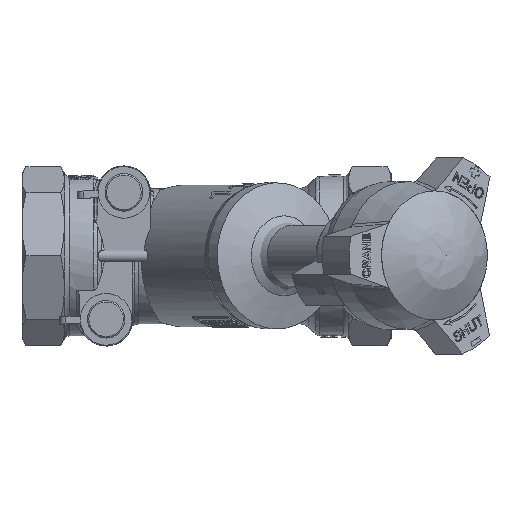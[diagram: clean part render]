
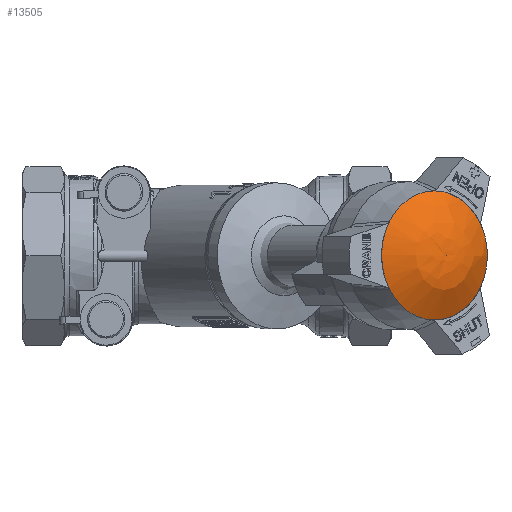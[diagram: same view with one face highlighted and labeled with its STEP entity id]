
A CAD part, top view. The second image highlights one B-rep face of the part: STEP entity #13505.
In plain terms, the highlighted free-form (B-spline) face has degree [2, 2] with [5, 9] control points.
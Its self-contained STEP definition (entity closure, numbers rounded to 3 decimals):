
#13416=CARTESIAN_POINT('',(14.802,21.882,123.101));
#13417=VERTEX_POINT('',#13416);
#13418=CARTESIAN_POINT('',(14.731,0.,123.151));
#13419=DIRECTION('',(0.574,0.,0.819));
#13420=DIRECTION('',(0.003,1.,-0.002));
#13421=AXIS2_PLACEMENT_3D('',#13418,#13419,#13420);
#13422=CIRCLE('',#13421,21.883);
#13423=EDGE_CURVE('',#13417,#13417,#13422,.T.);
#13449=CARTESIAN_POINT('',(29.612,-0.129,87.628));
#13450=CARTESIAN_POINT('',(35.888,-0.125,98.416));
#13451=CARTESIAN_POINT('',(32.688,-0.087,110.48));
#13452=CARTESIAN_POINT('',(29.487,-0.049,122.544));
#13453=CARTESIAN_POINT('',(18.689,0.,128.803));
#13454=CARTESIAN_POINT('',(29.506,-32.695,87.702));
#13455=CARTESIAN_POINT('',(35.786,-31.643,98.488));
#13456=CARTESIAN_POINT('',(32.616,-22.064,110.53));
#13457=CARTESIAN_POINT('',(29.447,-12.485,122.572));
#13458=CARTESIAN_POINT('',(18.689,0.,128.803));
#13459=CARTESIAN_POINT('',(2.831,-32.565,106.381));
#13460=CARTESIAN_POINT('',(9.968,-31.518,116.566));
#13461=CARTESIAN_POINT('',(14.614,-21.977,123.136));
#13462=CARTESIAN_POINT('',(19.26,-12.435,129.705));
#13463=CARTESIAN_POINT('',(18.689,0.,128.803));
#13464=CARTESIAN_POINT('',(-23.845,-32.436,125.059));
#13465=CARTESIAN_POINT('',(-15.85,-31.393,134.644));
#13466=CARTESIAN_POINT('',(-3.388,-21.889,135.741));
#13467=CARTESIAN_POINT('',(9.074,-12.386,136.838));
#13468=CARTESIAN_POINT('',(18.689,0.,128.803));
#13469=CARTESIAN_POINT('',(-23.739,0.129,124.985));
#13470=CARTESIAN_POINT('',(-15.748,0.125,134.572));
#13471=CARTESIAN_POINT('',(-3.317,0.087,135.691));
#13472=CARTESIAN_POINT('',(9.114,0.049,136.81));
#13473=CARTESIAN_POINT('',(18.689,0.,128.803));
#13474=CARTESIAN_POINT('',(-23.633,32.695,124.911));
#13475=CARTESIAN_POINT('',(-15.645,31.643,134.501));
#13476=CARTESIAN_POINT('',(-3.245,22.064,135.641));
#13477=CARTESIAN_POINT('',(9.155,12.485,136.781));
#13478=CARTESIAN_POINT('',(18.689,0.,128.803));
#13479=CARTESIAN_POINT('',(3.042,32.565,106.232));
#13480=CARTESIAN_POINT('',(10.173,31.518,116.423));
#13481=CARTESIAN_POINT('',(14.757,21.977,123.036));
#13482=CARTESIAN_POINT('',(19.341,12.435,129.648));
#13483=CARTESIAN_POINT('',(18.689,0.,128.803));
#13484=CARTESIAN_POINT('',(29.718,32.436,87.554));
#13485=CARTESIAN_POINT('',(35.991,31.393,98.345));
#13486=CARTESIAN_POINT('',(32.759,21.889,110.43));
#13487=CARTESIAN_POINT('',(29.528,12.386,122.516));
#13488=CARTESIAN_POINT('',(18.689,0.,128.803));
#13489=CARTESIAN_POINT('',(29.612,-0.129,87.628));
#13490=CARTESIAN_POINT('',(35.888,-0.125,98.416));
#13491=CARTESIAN_POINT('',(32.688,-0.087,110.48));
#13492=CARTESIAN_POINT('',(29.487,-0.049,122.544));
#13493=CARTESIAN_POINT('',(18.689,0.,128.803));
#13501=(BOUNDED_SURFACE()B_SPLINE_SURFACE(2,2,((#13449,#13454,#13459,#13464,#13469,#13474,#13479,#13484,#13489),(#13450,#13455,#13460,#13465,#13470,#13475,#13480,#13485,#13490),(#13451,#13456,#13461,#13466,#13471,#13476,#13481,#13486,#13491),(#13452,#13457,#13462,#13467,#13472,#13477,#13482,#13487,#13492),(#13453,#13458,#13463,#13468,#13473,#13478,#13483,#13488,#13493)),.UNSPECIFIED.,.F.,.T.,.U.)B_SPLINE_SURFACE_WITH_KNOTS((3,2,3),(3,2,2,2,3),(0.084,0.87,1.656),(0.0,1.571,3.142,4.712,6.283),.UNSPECIFIED.)GEOMETRIC_REPRESENTATION_ITEM()RATIONAL_B_SPLINE_SURFACE(((1.0,0.707,1.0,0.707,1.0,0.707,1.0,0.707,1.0),(0.924,0.653,0.924,0.653,0.924,0.653,0.924,0.653,0.924),(1.0,0.707,1.0,0.707,1.0,0.707,1.0,0.707,1.0),(0.924,0.653,0.924,0.653,0.924,0.653,0.924,0.653,0.924),(1.0,0.707,1.0,0.707,1.0,0.707,1.0,0.707,1.0)))REPRESENTATION_ITEM('')SURFACE());
#13502=ORIENTED_EDGE('',*,*,#13423,.T.);
#13503=EDGE_LOOP('',(#13502));
#13504=FACE_OUTER_BOUND('',#13503,.T.);
#13505=ADVANCED_FACE('',(#13504),#13501,.T.);
